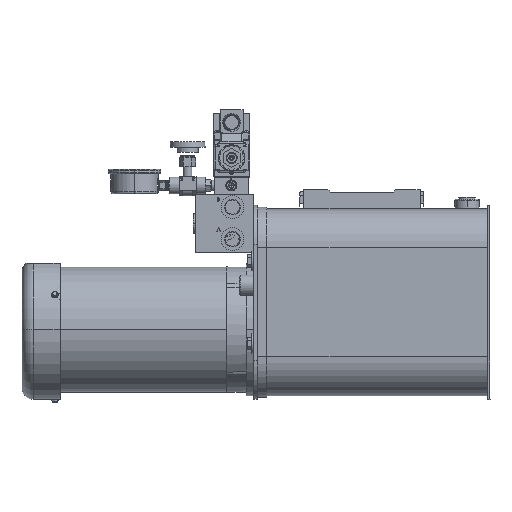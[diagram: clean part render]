
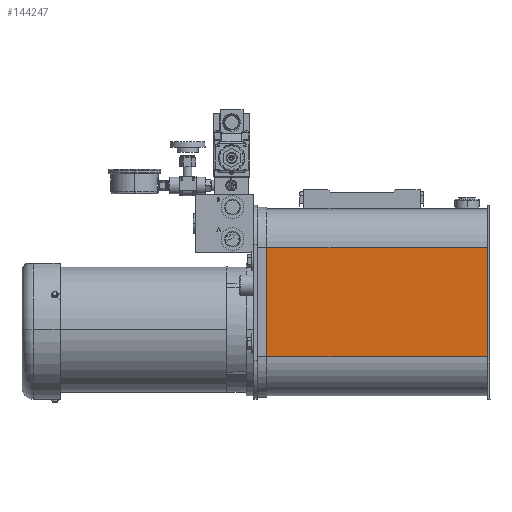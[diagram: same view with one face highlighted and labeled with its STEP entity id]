
A CAD part, top view. The second image highlights one B-rep face of the part: STEP entity #144247.
In plain terms, the highlighted planar face has unit normal (0, 0, 1).
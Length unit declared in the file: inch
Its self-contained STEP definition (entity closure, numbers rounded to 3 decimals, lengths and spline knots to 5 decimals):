
#1212 = ORIENTED_EDGE ( 'NONE', *, *, #29809, .F. ) ;
#2733 = PLANE ( 'NONE',  #113861 ) ;
#7969 = LINE ( 'NONE', #45132, #149028 ) ;
#14827 = CARTESIAN_POINT ( 'NONE',  ( -0.48316, 10.87104, 18.42602 ) ) ;
#26205 = VECTOR ( 'NONE', #59491, 39.37008 ) ;
#29809 = EDGE_CURVE ( 'NONE', #116326, #75130, #7969, .T. ) ;
#42143 = DIRECTION ( 'NONE',  ( 0., 1., 0. ) ) ;
#43251 = ORIENTED_EDGE ( 'NONE', *, *, #129568, .T. ) ;
#43670 = CARTESIAN_POINT ( 'NONE',  ( -0.60816, 5.24604, 18.42602 ) ) ;
#43784 = CARTESIAN_POINT ( 'NONE',  ( 11.27224, 5.24604, 18.42602 ) ) ;
#45132 = CARTESIAN_POINT ( 'NONE',  ( -0.60816, 10.87104, 18.42602 ) ) ;
#45214 = VECTOR ( 'NONE', #133598, 39.37008 ) ;
#45984 = DIRECTION ( 'NONE',  ( 0., 1., 0. ) ) ;
#59491 = DIRECTION ( 'NONE',  ( 1., 0., 0. ) ) ;
#61500 = CARTESIAN_POINT ( 'NONE',  ( -0.48316, 5.24604, 18.42602 ) ) ;
#64144 = DIRECTION ( 'NONE',  ( 0., 0., 1. ) ) ;
#71581 = CARTESIAN_POINT ( 'NONE',  ( -0.60816, 5.24604, 18.42602 ) ) ;
#75130 = VERTEX_POINT ( 'NONE', #142449 ) ;
#78519 = DIRECTION ( 'NONE',  ( 1., 0., 0. ) ) ;
#80675 = VERTEX_POINT ( 'NONE', #43784 ) ;
#85067 = CARTESIAN_POINT ( 'NONE',  ( -0.48316, 5.24604, 18.42602 ) ) ;
#86722 = ORIENTED_EDGE ( 'NONE', *, *, #93529, .F. ) ;
#93529 = EDGE_CURVE ( 'NONE', #149280, #116326, #97939, .T. ) ;
#97939 = LINE ( 'NONE', #85067, #45214 ) ;
#100279 = VECTOR ( 'NONE', #45984, 39.37008 ) ;
#113861 = AXIS2_PLACEMENT_3D ( 'NONE', #43670, #64144, #42143 ) ;
#116326 = VERTEX_POINT ( 'NONE', #14827 ) ;
#116590 = EDGE_CURVE ( 'NONE', #149280, #80675, #129996, .T. ) ;
#124857 = LINE ( 'NONE', #149910, #100279 ) ;
#129568 = EDGE_CURVE ( 'NONE', #80675, #75130, #124857, .T. ) ;
#129996 = LINE ( 'NONE', #71581, #26205 ) ;
#133598 = DIRECTION ( 'NONE',  ( 0., 1., 0. ) ) ;
#142449 = CARTESIAN_POINT ( 'NONE',  ( 11.27224, 10.87104, 18.42602 ) ) ;
#143838 = FACE_OUTER_BOUND ( 'NONE', #146164, .T. ) ;
#144247 = ADVANCED_FACE ( 'NONE', ( #143838 ), #2733, .T. ) ;
#144543 = ORIENTED_EDGE ( 'NONE', *, *, #116590, .T. ) ;
#146164 = EDGE_LOOP ( 'NONE', ( #1212, #86722, #144543, #43251 ) ) ;
#149028 = VECTOR ( 'NONE', #78519, 39.37008 ) ;
#149280 = VERTEX_POINT ( 'NONE', #61500 ) ;
#149910 = CARTESIAN_POINT ( 'NONE',  ( 11.27224, 13.05854, 18.42602 ) ) ;
